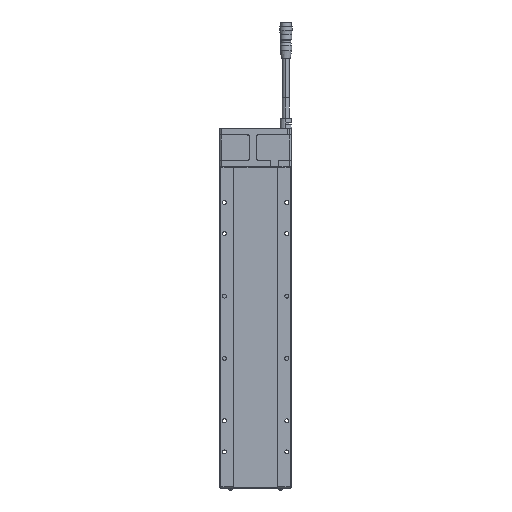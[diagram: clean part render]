
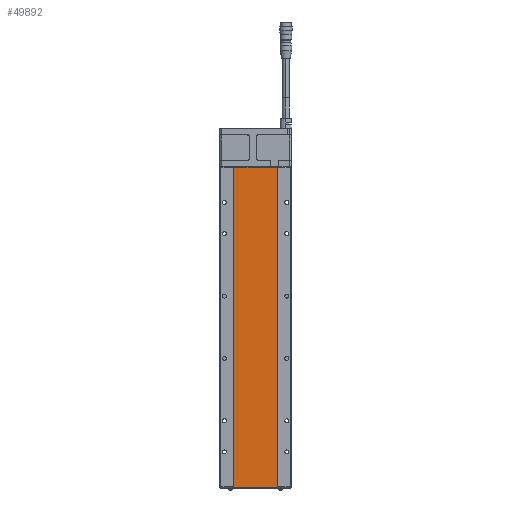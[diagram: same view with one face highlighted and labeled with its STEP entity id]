
A CAD part, front view. The second image highlights one B-rep face of the part: STEP entity #49892.
In plain terms, the highlighted planar face has unit normal (0, -1, 0).
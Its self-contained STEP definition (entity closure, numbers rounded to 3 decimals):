
#8233 = VERTEX_POINT ( 'NONE', #99155 ) ;
#18917 = CARTESIAN_POINT ( 'NONE',  ( 55.997, 64.1, 418.718 ) ) ;
#19161 = DIRECTION ( 'NONE',  ( -1., 0., 0. ) ) ;
#23595 = VERTEX_POINT ( 'NONE', #78916 ) ;
#28768 = VECTOR ( 'NONE', #63476, 1000. ) ;
#28817 = LINE ( 'NONE', #18917, #47361 ) ;
#30686 = EDGE_CURVE ( 'NONE', #63700, #8233, #28817, .T. ) ;
#31504 = VECTOR ( 'NONE', #71519, 1000. ) ;
#32029 = CARTESIAN_POINT ( 'NONE',  ( 55.997, 64.1, 59.118 ) ) ;
#32419 = LINE ( 'NONE', #61522, #28768 ) ;
#33068 = VERTEX_POINT ( 'NONE', #90994 ) ;
#36942 = ORIENTED_EDGE ( 'NONE', *, *, #30686, .T. ) ;
#38266 = EDGE_CURVE ( 'NONE', #23595, #63700, #52994, .T. ) ;
#42107 = ORIENTED_EDGE ( 'NONE', *, *, #38266, .T. ) ;
#44237 = CARTESIAN_POINT ( 'NONE',  ( 104.597, 64.1, 418.718 ) ) ;
#47361 = VECTOR ( 'NONE', #90218, 1000. ) ;
#49892 = ADVANCED_FACE ( 'NONE', ( #122157 ), #121510, .F. ) ;
#52532 = DIRECTION ( 'NONE',  ( 0., 0., -1. ) ) ;
#52994 = LINE ( 'NONE', #101818, #31504 ) ;
#59092 = VECTOR ( 'NONE', #52532, 1000. ) ;
#61495 = EDGE_CURVE ( 'NONE', #8233, #33068, #82231, .T. ) ;
#61522 = CARTESIAN_POINT ( 'NONE',  ( 55.997, 64.1, 59.118 ) ) ;
#63476 = DIRECTION ( 'NONE',  ( 1., 0., 0. ) ) ;
#63700 = VERTEX_POINT ( 'NONE', #44237 ) ;
#71519 = DIRECTION ( 'NONE',  ( 0., 0., 1. ) ) ;
#78916 = CARTESIAN_POINT ( 'NONE',  ( 104.597, 64.1, 59.118 ) ) ;
#82231 = LINE ( 'NONE', #32029, #59092 ) ;
#85248 = ORIENTED_EDGE ( 'NONE', *, *, #91895, .T. ) ;
#90218 = DIRECTION ( 'NONE',  ( -1., 0., 0. ) ) ;
#90994 = CARTESIAN_POINT ( 'NONE',  ( 55.997, 64.1, 59.118 ) ) ;
#91895 = EDGE_CURVE ( 'NONE', #33068, #23595, #32419, .T. ) ;
#99155 = CARTESIAN_POINT ( 'NONE',  ( 55.997, 64.1, 418.718 ) ) ;
#100342 = CARTESIAN_POINT ( 'NONE',  ( 55.997, 64.1, 418.718 ) ) ;
#101818 = CARTESIAN_POINT ( 'NONE',  ( 104.597, 64.1, 59.118 ) ) ;
#109596 = DIRECTION ( 'NONE',  ( 0., 1., 0. ) ) ;
#112286 = EDGE_LOOP ( 'NONE', ( #118312, #85248, #42107, #36942 ) ) ;
#118312 = ORIENTED_EDGE ( 'NONE', *, *, #61495, .T. ) ;
#119517 = AXIS2_PLACEMENT_3D ( 'NONE', #100342, #109596, #19161 ) ;
#121510 = PLANE ( 'NONE',  #119517 ) ;
#122157 = FACE_OUTER_BOUND ( 'NONE', #112286, .T. ) ;
